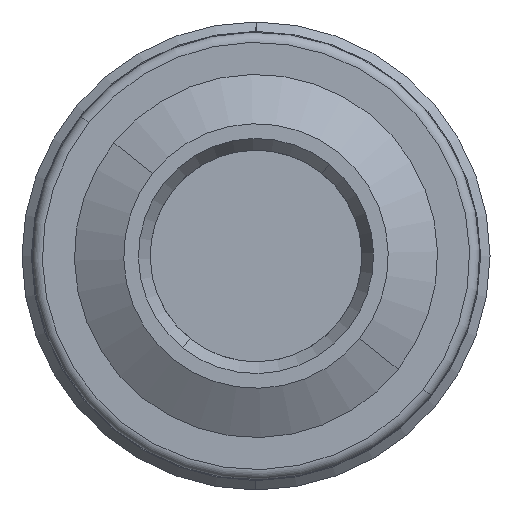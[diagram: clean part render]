
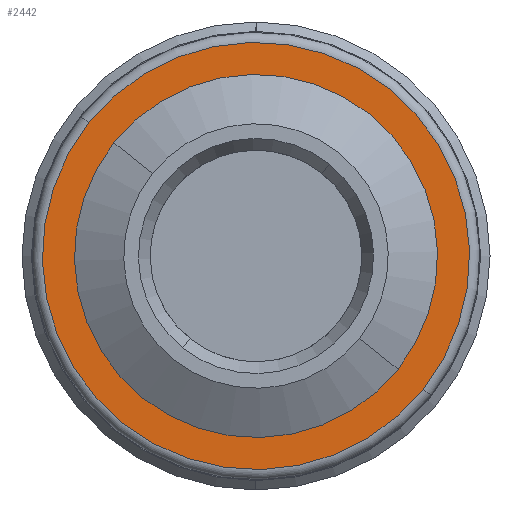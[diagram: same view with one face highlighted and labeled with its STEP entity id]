
A CAD part, front view. The second image highlights one B-rep face of the part: STEP entity #2442.
In plain terms, the highlighted planar face has unit normal (0, -1, 0).
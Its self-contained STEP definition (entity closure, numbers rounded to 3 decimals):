
#22=FACE_BOUND('',#300,.T.);
#41=PLANE('',#2954);
#188=FACE_OUTER_BOUND('',#299,.T.);
#299=EDGE_LOOP('',(#2154));
#300=EDGE_LOOP('',(#2155));
#902=CIRCLE('',#2955,5.25);
#903=CIRCLE('',#2956,4.462);
#1294=VERTEX_POINT('',#4683);
#1295=VERTEX_POINT('',#4685);
#1724=EDGE_CURVE('',#1294,#1294,#902,.T.);
#1725=EDGE_CURVE('',#1295,#1295,#903,.T.);
#2154=ORIENTED_EDGE('',*,*,#1724,.T.);
#2155=ORIENTED_EDGE('',*,*,#1725,.T.);
#2442=ADVANCED_FACE('',(#188,#22),#41,.T.);
#2954=AXIS2_PLACEMENT_3D('',#4682,#3740,#3741);
#2955=AXIS2_PLACEMENT_3D('',#4684,#3742,#3743);
#2956=AXIS2_PLACEMENT_3D('',#4686,#3744,#3745);
#3740=DIRECTION('center_axis',(0.,-1.,0.));
#3741=DIRECTION('ref_axis',(0.,0.,-1.));
#3742=DIRECTION('center_axis',(0.,-1.,0.));
#3743=DIRECTION('ref_axis',(-0.782,0.,0.623));
#3744=DIRECTION('center_axis',(0.,1.,0.));
#3745=DIRECTION('ref_axis',(0.782,0.,-0.623));
#4682=CARTESIAN_POINT('Origin',(3.31,-3.2,4.156));
#4683=CARTESIAN_POINT('',(4.107,-3.2,-3.271));
#4684=CARTESIAN_POINT('Origin',(0.,-3.2,0.));
#4685=CARTESIAN_POINT('',(-3.491,-3.2,2.78));
#4686=CARTESIAN_POINT('Origin',(0.,-3.2,0.));
